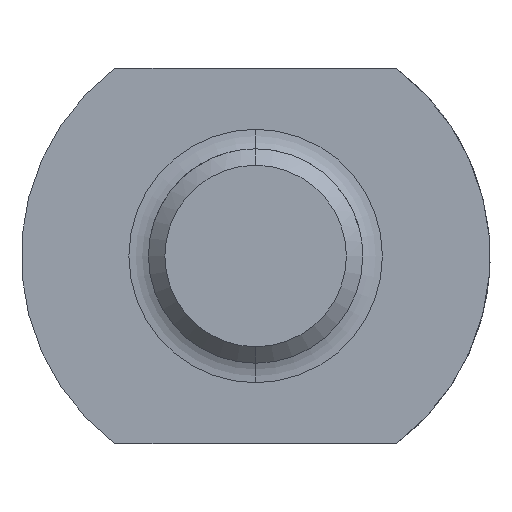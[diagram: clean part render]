
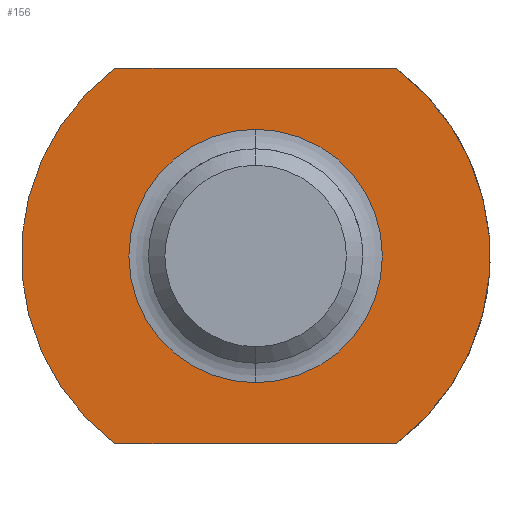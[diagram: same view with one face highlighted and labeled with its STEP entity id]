
A CAD part, left-side view. The second image highlights one B-rep face of the part: STEP entity #156.
In plain terms, the highlighted planar face has unit normal (-1, 0, 0).
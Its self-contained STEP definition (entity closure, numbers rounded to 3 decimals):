
#57=CARTESIAN_POINT('Line Origine',(0.,0.,-14.)) ;
#61=CARTESIAN_POINT('Vertex',(0.,-10.5,-14.)) ;
#63=CARTESIAN_POINT('Vertex',(0.,10.5,-14.)) ;
#92=CARTESIAN_POINT('Axis2P3D Location',(0.,9.458,0.)) ;
#97=CARTESIAN_POINT('Axis2P3D Location',(0.,0.,0.)) ;
#101=CARTESIAN_POINT('Vertex',(0.,10.5,14.)) ;
#104=CARTESIAN_POINT('Axis2P3D Location',(0.,0.,0.)) ;
#108=CARTESIAN_POINT('Vertex',(0.,-10.5,14.)) ;
#111=CARTESIAN_POINT('Line Origine',(0.,0.,14.)) ;
#122=CARTESIAN_POINT('Axis2P3D Location',(0.,0.,0.)) ;
#126=CARTESIAN_POINT('Vertex',(0.,9.458,0.)) ;
#128=CARTESIAN_POINT('Vertex',(0.,0.,9.458)) ;
#131=CARTESIAN_POINT('Axis2P3D Location',(0.,0.,0.)) ;
#135=CARTESIAN_POINT('Vertex',(0.,-9.458,0.)) ;
#138=CARTESIAN_POINT('Axis2P3D Location',(0.,0.,0.)) ;
#142=CARTESIAN_POINT('Vertex',(0.,0.,-9.458)) ;
#145=CARTESIAN_POINT('Axis2P3D Location',(0.,0.,0.)) ;
#58=DIRECTION('Vector Direction',(0.,1.,0.)) ;
#93=DIRECTION('Axis2P3D Direction',(1.,0.,-0.)) ;
#94=DIRECTION('Axis2P3D XDirection',(-0.,0.,-1.)) ;
#98=DIRECTION('Axis2P3D Direction',(1.,0.,-0.)) ;
#105=DIRECTION('Axis2P3D Direction',(1.,0.,-0.)) ;
#112=DIRECTION('Vector Direction',(0.,-1.,0.)) ;
#123=DIRECTION('Axis2P3D Direction',(1.,0.,-0.)) ;
#132=DIRECTION('Axis2P3D Direction',(1.,0.,-0.)) ;
#139=DIRECTION('Axis2P3D Direction',(1.,0.,-0.)) ;
#146=DIRECTION('Axis2P3D Direction',(1.,0.,-0.)) ;
#95=AXIS2_PLACEMENT_3D('Plane Axis2P3D',#92,#93,#94) ;
#99=AXIS2_PLACEMENT_3D('Circle Axis2P3D',#97,#98,$) ;
#106=AXIS2_PLACEMENT_3D('Circle Axis2P3D',#104,#105,$) ;
#124=AXIS2_PLACEMENT_3D('Circle Axis2P3D',#122,#123,$) ;
#133=AXIS2_PLACEMENT_3D('Circle Axis2P3D',#131,#132,$) ;
#140=AXIS2_PLACEMENT_3D('Circle Axis2P3D',#138,#139,$) ;
#147=AXIS2_PLACEMENT_3D('Circle Axis2P3D',#145,#146,$) ;
#117=ORIENTED_EDGE('',*,*,#103,.F.) ;
#118=ORIENTED_EDGE('',*,*,#65,.F.) ;
#119=ORIENTED_EDGE('',*,*,#110,.F.) ;
#120=ORIENTED_EDGE('',*,*,#115,.F.) ;
#151=ORIENTED_EDGE('',*,*,#130,.T.) ;
#152=ORIENTED_EDGE('',*,*,#137,.T.) ;
#153=ORIENTED_EDGE('',*,*,#144,.T.) ;
#154=ORIENTED_EDGE('',*,*,#149,.T.) ;
#155=FACE_BOUND('',#150,.T.) ;
#59=VECTOR('Line Direction',#58,1.) ;
#113=VECTOR('Line Direction',#112,1.) ;
#156=ADVANCED_FACE('AGS3411M16',(#121,#155),#96,.F.) ;
#100=CIRCLE('generated circle',#99,17.5) ;
#107=CIRCLE('generated circle',#106,17.5) ;
#125=CIRCLE('generated circle',#124,9.458) ;
#134=CIRCLE('generated circle',#133,9.458) ;
#141=CIRCLE('generated circle',#140,9.458) ;
#148=CIRCLE('generated circle',#147,9.458) ;
#65=EDGE_CURVE('',#62,#64,#60,.T.) ;
#103=EDGE_CURVE('',#64,#102,#100,.T.) ;
#110=EDGE_CURVE('',#109,#62,#107,.T.) ;
#115=EDGE_CURVE('',#102,#109,#114,.T.) ;
#130=EDGE_CURVE('',#127,#129,#125,.T.) ;
#137=EDGE_CURVE('',#129,#136,#134,.T.) ;
#144=EDGE_CURVE('',#136,#143,#141,.T.) ;
#149=EDGE_CURVE('',#143,#127,#148,.T.) ;
#116=EDGE_LOOP('',(#117,#118,#119,#120)) ;
#150=EDGE_LOOP('',(#151,#152,#153,#154)) ;
#121=FACE_OUTER_BOUND('',#116,.T.) ;
#60=LINE('Line',#57,#59) ;
#114=LINE('Line',#111,#113) ;
#96=PLANE('Plane',#95) ;
#62=VERTEX_POINT('',#61) ;
#64=VERTEX_POINT('',#63) ;
#102=VERTEX_POINT('',#101) ;
#109=VERTEX_POINT('',#108) ;
#127=VERTEX_POINT('',#126) ;
#129=VERTEX_POINT('',#128) ;
#136=VERTEX_POINT('',#135) ;
#143=VERTEX_POINT('',#142) ;
